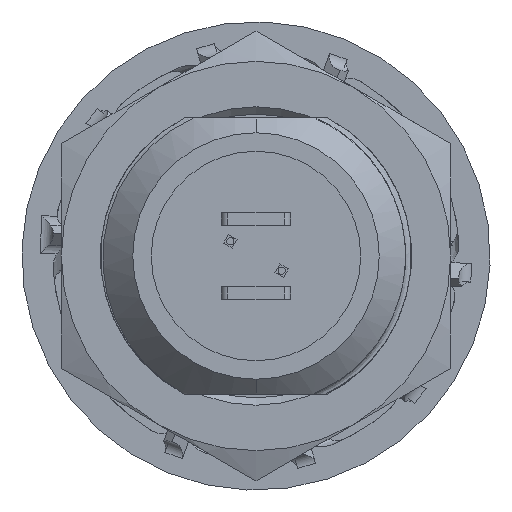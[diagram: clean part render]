
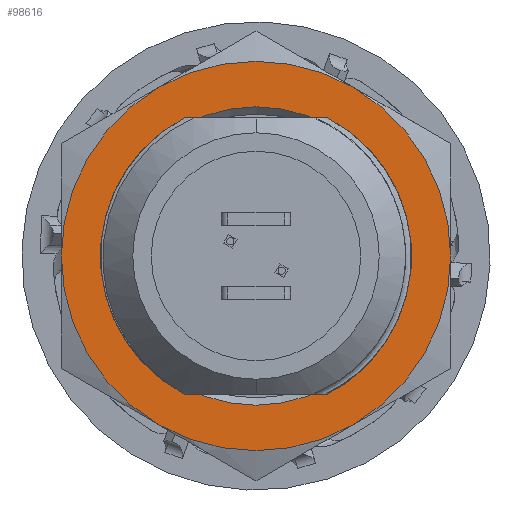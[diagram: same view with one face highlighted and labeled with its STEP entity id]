
A CAD part, left-side view. The second image highlights one B-rep face of the part: STEP entity #98616.
In plain terms, the highlighted planar face has unit normal (-1, 0, 0) as drawn and (0, 0, 1) by its records, which use the part's own axes.
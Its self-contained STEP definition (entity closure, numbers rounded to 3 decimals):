
#1356 = CARTESIAN_POINT ( 'NONE',  ( 7.898, 0., 1.5 ) ) ;
#1703 = AXIS2_PLACEMENT_3D ( 'NONE', #72747, #2751, #63627 ) ;
#2751 = DIRECTION ( 'NONE',  ( 0., 0., 1. ) ) ;
#5357 = AXIS2_PLACEMENT_3D ( 'NONE', #40651, #22794, #58150 ) ;
#9599 = DIRECTION ( 'NONE',  ( 0., 0., -1. ) ) ;
#10719 = CARTESIAN_POINT ( 'NONE',  ( 0., 0., 1.5 ) ) ;
#11087 = EDGE_LOOP ( 'NONE', ( #51990, #16473 ) ) ;
#15164 = CIRCLE ( 'NONE', #5357, 6.054 ) ;
#16473 = ORIENTED_EDGE ( 'NONE', *, *, #44086, .T. ) ;
#19163 = PLANE ( 'NONE',  #67358 ) ;
#21327 = CARTESIAN_POINT ( 'NONE',  ( 0., 0., 1.5 ) ) ;
#22794 = DIRECTION ( 'NONE',  ( 0., 0., -1. ) ) ;
#25722 = CIRCLE ( 'NONE', #79947, 6.054 ) ;
#29382 = DIRECTION ( 'NONE',  ( 0., 0., 1. ) ) ;
#30133 = CARTESIAN_POINT ( 'NONE',  ( 0., 0., 1.5 ) ) ;
#31378 = EDGE_CURVE ( 'NONE', #87717, #61025, #63890, .T. ) ;
#32468 = CARTESIAN_POINT ( 'NONE',  ( -6.054, 0., 1.5 ) ) ;
#36576 = ORIENTED_EDGE ( 'NONE', *, *, #37567, .T. ) ;
#37567 = EDGE_CURVE ( 'NONE', #61025, #87717, #76155, .T. ) ;
#39255 = DIRECTION ( 'NONE',  ( 1., 0., 0. ) ) ;
#40651 = CARTESIAN_POINT ( 'NONE',  ( 0., 0., 1.5 ) ) ;
#41840 = VERTEX_POINT ( 'NONE', #48141 ) ;
#43395 = AXIS2_PLACEMENT_3D ( 'NONE', #21327, #81859, #56321 ) ;
#44086 = EDGE_CURVE ( 'NONE', #96194, #41840, #25722, .T. ) ;
#48141 = CARTESIAN_POINT ( 'NONE',  ( 6.054, 0., 1.5 ) ) ;
#51990 = ORIENTED_EDGE ( 'NONE', *, *, #92081, .T. ) ;
#55814 = CARTESIAN_POINT ( 'NONE',  ( -7.898, 0., 1.5 ) ) ;
#56321 = DIRECTION ( 'NONE',  ( 1., 0., 0. ) ) ;
#58150 = DIRECTION ( 'NONE',  ( 1., 0., 0. ) ) ;
#59937 = FACE_BOUND ( 'NONE', #11087, .T. ) ;
#61025 = VERTEX_POINT ( 'NONE', #1356 ) ;
#63627 = DIRECTION ( 'NONE',  ( 1., 0., 0. ) ) ;
#63890 = CIRCLE ( 'NONE', #1703, 7.898 ) ;
#67358 = AXIS2_PLACEMENT_3D ( 'NONE', #30133, #29382, #39255 ) ;
#70474 = DIRECTION ( 'NONE',  ( 1., 0., 0. ) ) ;
#72747 = CARTESIAN_POINT ( 'NONE',  ( 0., 0., 1.5 ) ) ;
#76155 = CIRCLE ( 'NONE', #43395, 7.898 ) ;
#79947 = AXIS2_PLACEMENT_3D ( 'NONE', #10719, #9599, #70474 ) ;
#81859 = DIRECTION ( 'NONE',  ( 0., 0., 1. ) ) ;
#87717 = VERTEX_POINT ( 'NONE', #55814 ) ;
#90531 = EDGE_LOOP ( 'NONE', ( #92195, #36576 ) ) ;
#92081 = EDGE_CURVE ( 'NONE', #41840, #96194, #15164, .T. ) ;
#92195 = ORIENTED_EDGE ( 'NONE', *, *, #31378, .T. ) ;
#96194 = VERTEX_POINT ( 'NONE', #32468 ) ;
#98122 = FACE_OUTER_BOUND ( 'NONE', #90531, .T. ) ;
#98616 = ADVANCED_FACE ( 'NONE', ( #59937, #98122 ), #19163, .T. ) ;
